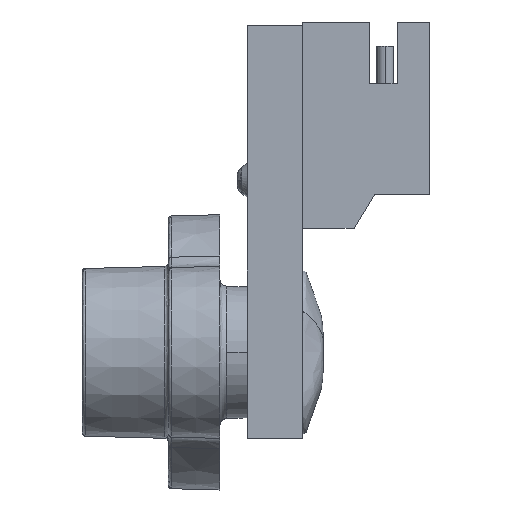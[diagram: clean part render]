
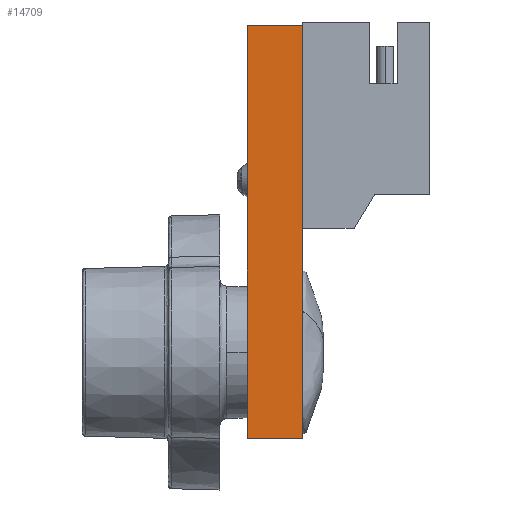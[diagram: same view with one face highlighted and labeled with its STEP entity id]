
A CAD part, left-side view. The second image highlights one B-rep face of the part: STEP entity #14709.
In plain terms, the highlighted planar face has unit normal (-1, 0, 0).
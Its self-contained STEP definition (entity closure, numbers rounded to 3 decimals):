
#351 = VECTOR ( 'NONE', #14909, 1000. ) ;
#502 = ORIENTED_EDGE ( 'NONE', *, *, #18453, .F. ) ;
#1347 = CARTESIAN_POINT ( 'NONE',  ( -8., 1.6, 6. ) ) ;
#2860 = CARTESIAN_POINT ( 'NONE',  ( -8., 1.6, 6. ) ) ;
#3490 = DIRECTION ( 'NONE',  ( 0., 0., -1. ) ) ;
#3876 = DIRECTION ( 'NONE',  ( 0., -1., 0. ) ) ;
#4368 = AXIS2_PLACEMENT_3D ( 'NONE', #19367, #9040, #17585 ) ;
#4631 = LINE ( 'NONE', #2860, #351 ) ;
#5557 = CARTESIAN_POINT ( 'NONE',  ( -8., 1.6, -6. ) ) ;
#6890 = VECTOR ( 'NONE', #11704, 1000. ) ;
#8187 = VERTEX_POINT ( 'NONE', #18720 ) ;
#9040 = DIRECTION ( 'NONE',  ( 1., 0., 0. ) ) ;
#9082 = CARTESIAN_POINT ( 'NONE',  ( -8., 0., 6. ) ) ;
#9868 = EDGE_LOOP ( 'NONE', ( #16024, #18505, #10178, #502 ) ) ;
#10178 = ORIENTED_EDGE ( 'NONE', *, *, #11868, .T. ) ;
#11642 = FACE_OUTER_BOUND ( 'NONE', #9868, .T. ) ;
#11704 = DIRECTION ( 'NONE',  ( 0., 0., 1. ) ) ;
#11868 = EDGE_CURVE ( 'NONE', #16424, #8187, #14363, .T. ) ;
#11966 = CARTESIAN_POINT ( 'NONE',  ( -8., 0., 0. ) ) ;
#12631 = VERTEX_POINT ( 'NONE', #9082 ) ;
#13789 = EDGE_CURVE ( 'NONE', #18468, #12631, #4631, .T. ) ;
#13975 = VECTOR ( 'NONE', #3876, 1000. ) ;
#14363 = LINE ( 'NONE', #5557, #13975 ) ;
#14709 = ADVANCED_FACE ( 'NONE', ( #11642 ), #15123, .F. ) ;
#14909 = DIRECTION ( 'NONE',  ( 0., -1., 0. ) ) ;
#15123 = PLANE ( 'NONE',  #4368 ) ;
#15144 = EDGE_CURVE ( 'NONE', #16424, #18468, #22113, .T. ) ;
#16024 = ORIENTED_EDGE ( 'NONE', *, *, #13789, .F. ) ;
#16424 = VERTEX_POINT ( 'NONE', #16937 ) ;
#16937 = CARTESIAN_POINT ( 'NONE',  ( -8., 1.6, -6. ) ) ;
#17503 = VECTOR ( 'NONE', #3490, 1000. ) ;
#17585 = DIRECTION ( 'NONE',  ( 0., 0., -1. ) ) ;
#18453 = EDGE_CURVE ( 'NONE', #12631, #8187, #19518, .T. ) ;
#18468 = VERTEX_POINT ( 'NONE', #20473 ) ;
#18505 = ORIENTED_EDGE ( 'NONE', *, *, #15144, .F. ) ;
#18720 = CARTESIAN_POINT ( 'NONE',  ( -8., 0., -6. ) ) ;
#19367 = CARTESIAN_POINT ( 'NONE',  ( -8., 1.6, 6. ) ) ;
#19518 = LINE ( 'NONE', #11966, #17503 ) ;
#20473 = CARTESIAN_POINT ( 'NONE',  ( -8., 1.6, 6. ) ) ;
#22113 = LINE ( 'NONE', #1347, #6890 ) ;
